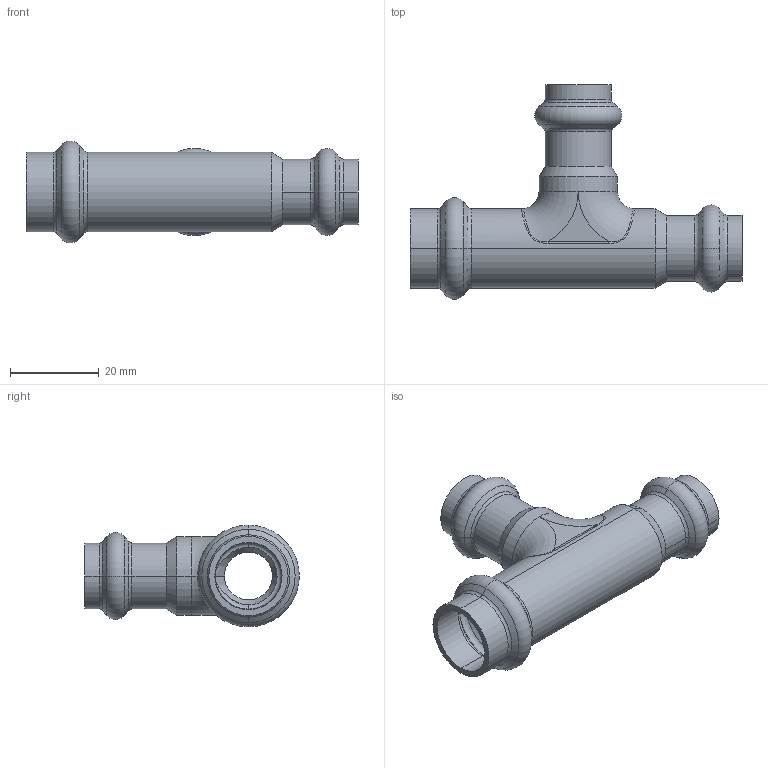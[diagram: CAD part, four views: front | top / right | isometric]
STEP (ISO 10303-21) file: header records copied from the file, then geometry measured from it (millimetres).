
FILE_DESCRIPTION (( 'STEP AP203' ), '1' );
FILE_NAME ('SP5130 Ø15-12-12.STEP', '2017-04-24T13:04:06', ( '' ), ( '' ), 'SwSTEP 2.0', 'SolidWorks 2016', '' );
FILE_SCHEMA (( 'CONFIG_CONTROL_DESIGN' ));
Length unit declared in the file: millimetre
Products named in the file (1): SP5130 Ø15-12-12
Bounding box: 75 x 48.5 x 23 mm (x, y, z)
Volume: 8985.2 mm3; surface area: 10906 mm2
Topology: 1 solids, 1 shells, 131 faces, 288 edges, 156 vertices
Faces by surface type: torus 46, cylinder 37, cone 36, bspline 6, plane 6
Entity records: 4915 total; most frequent: CARTESIAN_POINT 1924, DIRECTION 702, ORIENTED_EDGE 568, AXIS2_PLACEMENT_3D 314, EDGE_CURVE 284, CIRCLE 188, VERTEX_POINT 156, EDGE_LOOP 136
